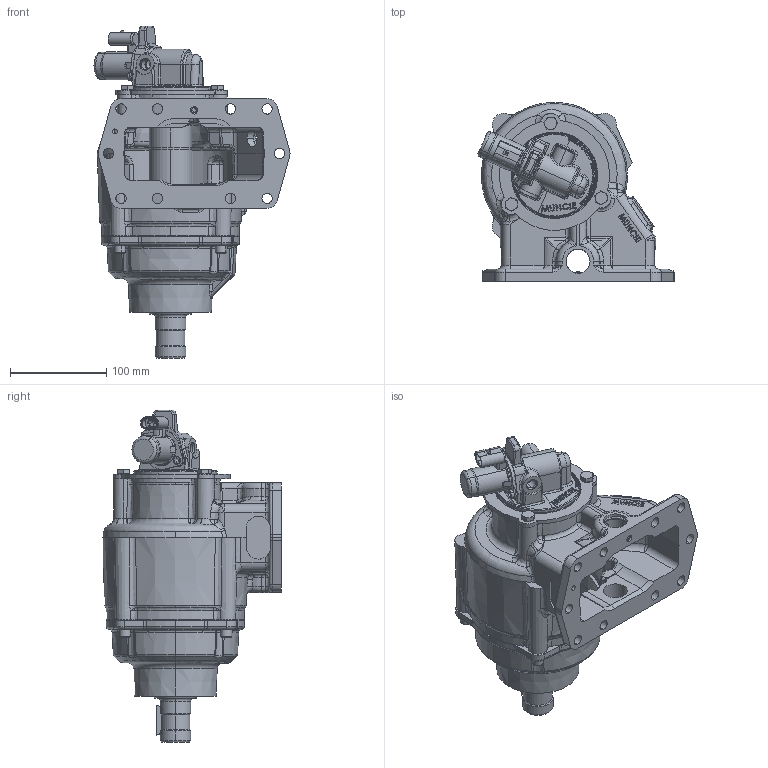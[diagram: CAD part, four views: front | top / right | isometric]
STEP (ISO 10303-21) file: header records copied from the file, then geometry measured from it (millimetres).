
FILE_DESCRIPTION (( 'STEP AP214' ), '1' );
FILE_NAME ('A20-A10XX-HX11XPX.STEP', '2021-03-10T14:03:15', ( '' ), ( '' ), 'SwSTEP 2.0', 'SolidWorks 2019', '' );
FILE_SCHEMA (( 'AUTOMOTIVE_DESIGN' ));
Length unit declared in the file: millimetre
Products named in the file (2): A20-A10XX-HX11XPX
Bounding box: 204.08 x 186.1 x 345.58 mm (x, y, z)
Volume: 1745820.2 mm3; surface area: 459577.2 mm2
Topology: 33 solids, 33 shells, 3251 faces, 8034 edges, 4898 vertices
Faces by surface type: plane 1121, cylinder 704, bspline 609, cone 379, torus 375, sphere 63
Entity records: 189020 total; most frequent: CARTESIAN_POINT 80229, ORIENTED_EDGE 15898, DIRECTION 14218, EDGE_CURVE 7949, AXIS2_PLACEMENT_3D 5553, VERTEX_POINT 4898, EDGE_LOOP 3493, UNCERTAINTY_MEASURE_WITH_UNIT 3286
